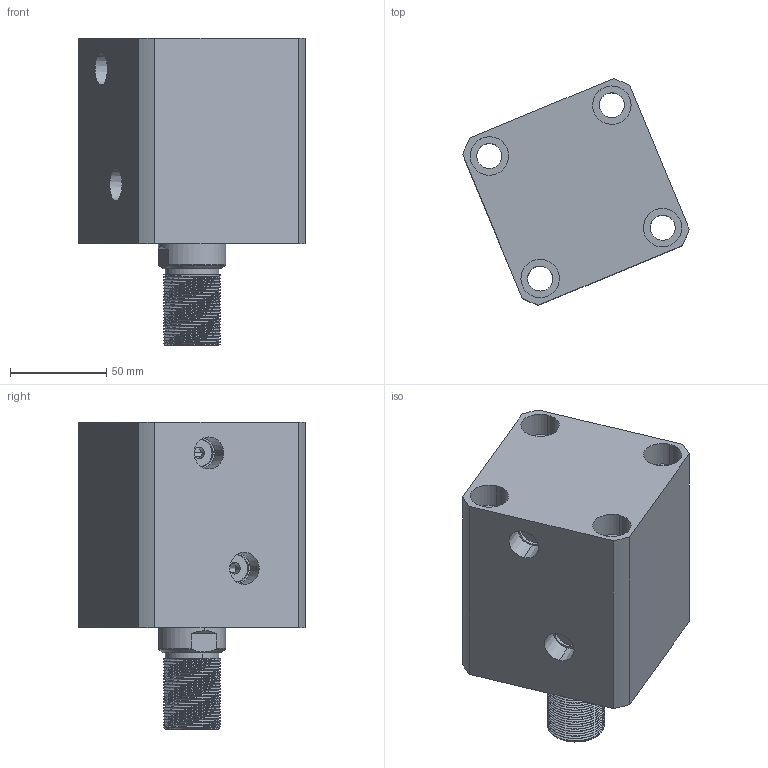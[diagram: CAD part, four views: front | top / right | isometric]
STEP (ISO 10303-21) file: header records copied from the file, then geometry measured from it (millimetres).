
FILE_DESCRIPTION (( 'STEP AP214' ), '1' );
FILE_NAME ('chtb-sd63x40w_asm.STEP', '2018-05-19T01:55:45', ( 'Windows' ), ( 'Microsoft' ), 'SwSTEP 2.0', 'SolidWorks 2015', '' );
FILE_SCHEMA (( 'AUTOMOTIVE_DESIGN' ));
Length unit declared in the file: millimetre
Products named in the file (4): CHTB63X40WHSG; CHTB63X40NBT; CHTB-63QG; chtb-sd63x40w_asm
Assembly tree (3 placements, depth 2):
  chtb-sd63x40w_asm
    CHTB-63QG
    CHTB63X40NBT
    CHTB63X40WHSG
Bounding box: 117.81 x 117.81 x 160 mm (x, y, z)
Volume: 809196.1 mm3; surface area: 141194.5 mm2
Topology: 3 solids, 3 shells, 219 faces, 625 edges, 427 vertices
Faces by surface type: cylinder 150, plane 36, bspline 14, cone 13, torus 6
Entity records: 22208 total; most frequent: CARTESIAN_POINT 16953, ORIENTED_EDGE 1242, DIRECTION 881, EDGE_CURVE 621, VERTEX_POINT 427, AXIS2_PLACEMENT_3D 346, EDGE_LOOP 252, FACE_OUTER_BOUND 219
